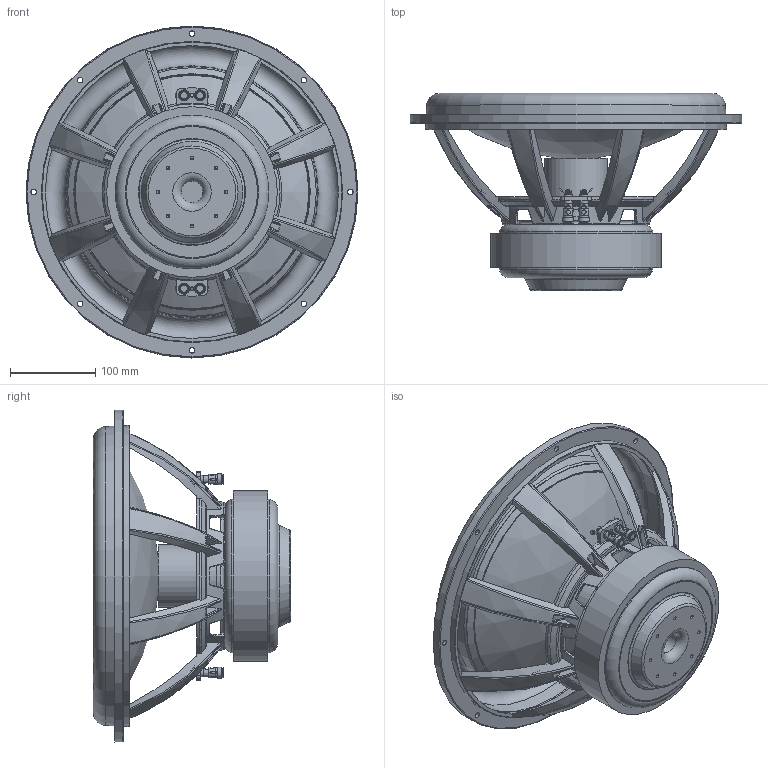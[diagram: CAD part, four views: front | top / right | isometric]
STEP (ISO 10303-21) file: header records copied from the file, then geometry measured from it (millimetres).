
FILE_DESCRIPTION(/* description */ (''),/* implementation_level */ '2;1');
FILE_NAME(/* name */ 'UMII15-22.step',/* time_stamp */ '2025-07-25T12:59:28-04:00',/* author */ (''),/* organization */ (''),/* preprocessor_version */ 'ST-DEVELOPER v20.1',/* originating_system */ 'Autodesk Translation Framework v14.10.0.0',/* authorisation */ '');
FILE_SCHEMA (('AUTOMOTIVE_DESIGN { 1 0 10303 214 3 1 1 }'));
Length unit declared in the file: millimetre
Products named in the file (4): ULTIMAX_II_15INCH_SUB_ASM; NBR_PAPER_CON_15CH_01; TERMINAL_10-18_ASM; TERMINAL-06
Assembly tree (3 placements, depth 3):
  ULTIMAX_II_15INCH_SUB_ASM
    NBR_PAPER_CON_15CH_01
    TERMINAL_10-18_ASM
      TERMINAL-06
Bounding box: 389.01 x 231 x 389.01 mm (x, y, z)
Volume: 2900614.9 mm3; surface area: 689616.1 mm2
Topology: 13 solids, 14 shells, 1274 faces, 3327 edges, 2123 vertices
Faces by surface type: cylinder 394, plane 361, bspline 336, torus 106, cone 74, sphere 3
Full cylindrical faces by diameter (mm): 2.2 x8, 4 x120, 4.2 x2, 4.5 x12, 5 x12, 6 x10, 6.2 x4, 6.3 x6, 6.5 x12, 7.2 x4, 8 x4, 9.3 x8, 9.5 x4, 9.7 x4, 11.5 x8, 12.8 x4, 25 x1, 73.85 x1, 74.85 x1, 78.9 x1, 91.011 x1, 110.008 x1, 125.112 x1, 125.3 x1, 153.7 x1, 154 x1, 180 x2, 200 x1, 356 x1
Entity records: 125378 total; most frequent: CARTESIAN_POINT 96143, ORIENTED_EDGE 6654, DIRECTION 5290, EDGE_CURVE 3327, AXIS2_PLACEMENT_3D 2154, VERTEX_POINT 2123, EDGE_LOOP 1450, FACE_OUTER_BOUND 1274
